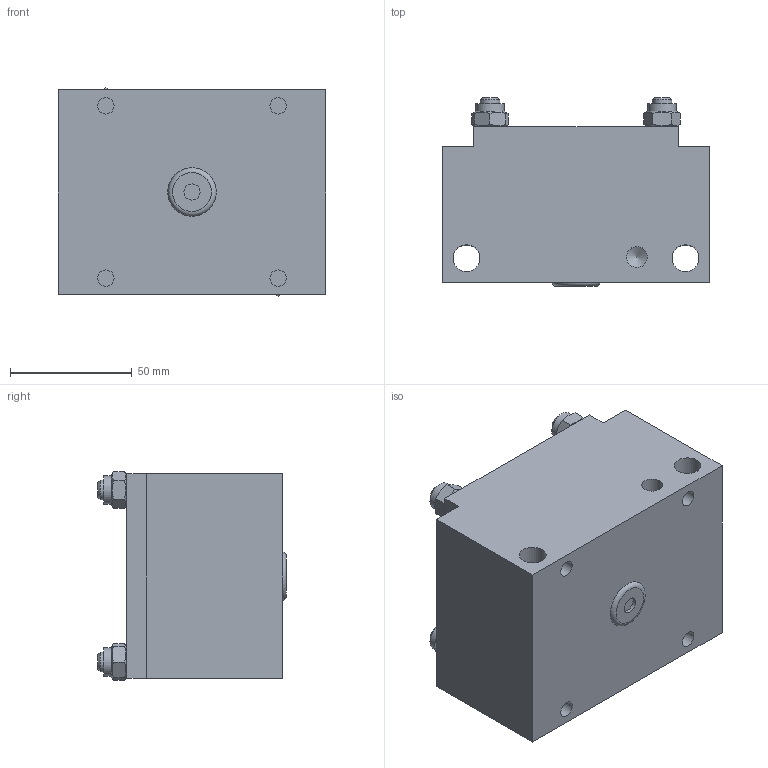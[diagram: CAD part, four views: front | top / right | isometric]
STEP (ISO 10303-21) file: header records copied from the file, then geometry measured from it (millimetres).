
FILE_DESCRIPTION((''),'2;1');
FILE_NAME('C:\VaultWork\Zeichnungen\Maßblätter\Multizylinder\M 75\M75-30\M01782-4-0 Maßblatt Multizylinder M75-1-30.stp','2013-06-17T11:17:47',('Sergeew'),(''),'Autodesk Inventor 2012','Autodesk Inventor 2012','');
FILE_SCHEMA(('AUTOMOTIVE_DESIGN { 1 0 10303 214 1 1 1 1 }'));
Length unit declared in the file: millimetre
Products named in the file (1): M01782-4-0 Maßblatt Multizylinder M75-1-30
Bounding box: 110 x 77.5 x 85.72 mm (x, y, z)
Volume: 553669.7 mm3; surface area: 57029.8 mm2
Topology: 1 solids, 1 shells, 104 faces, 235 edges, 156 vertices
Faces by surface type: plane 57, cylinder 25, cone 21, torus 1
Full cylindrical faces by diameter (mm): 6.647 x5, 8 x8, 8.566 x2, 9 x4, 11 x2, 11.6 x4
Entity records: 2541 total; most frequent: CARTESIAN_POINT 497, DIRECTION 394, ORIENTED_EDGE 328, EDGE_LOOP 178, AXIS2_PLACEMENT_3D 173, EDGE_CURVE 164, VERTEX_POINT 132, FACE_OUTER_BOUND 104
